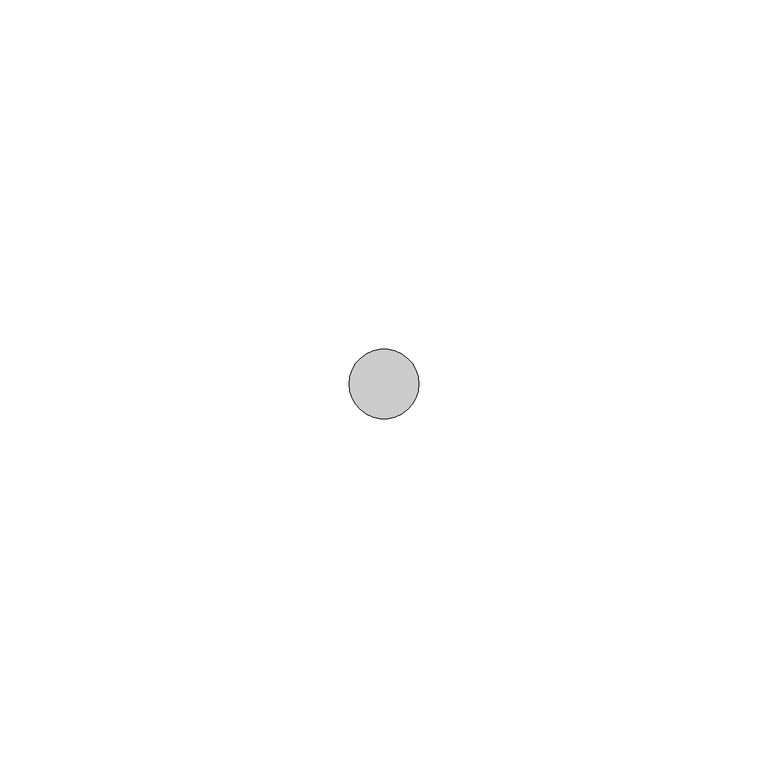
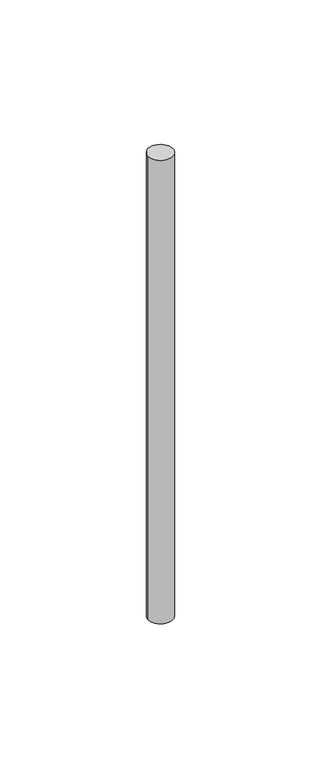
"""IFC4 building model written with IfcOpenShell, lengths in millimetres: proxy geometry, ENG-Connectors installed in horizontal structure sealed with AKTI-VO 201 : ENG-Connectors installed in horizontal structure sealed with AKTI-VO 201."""

from ifc_helpers import new_model, si_unit, point, origin, origin_with_axes, origin_2d, place, context, project, spatial, circle_curve, trimmed, segment, composite_curve, outline, extrude, source, transform, mapped, element, save


def generic_models_3b7ed561(model_context):
    return source(origin(), model_context, "Body", "SweptSolid", [
        extrude(outline(composite_curve([segment(trimmed(circle_curve(origin_2d(), 5.0), [point((-5.0, 0.0))], [point((5.0, 0.0))], False, "CARTESIAN"), True, "CONTINUOUS"), segment(trimmed(circle_curve(origin_2d(), 5.0), [point((5.0, 0.0))], [point((-5.0, 0.0))], False, "CARTESIAN"), True, "CONTINUOUS")], self_intersect=False)), origin_with_axes(), (0.0, 0.0, 1.0), 200.0),
    ])


if __name__ == "__main__":
    model = new_model("IFC4")
    model_context = context("Model", 3, world=origin())
    ifc_project = project(units=[si_unit("LENGTHUNIT", "METRE", prefix="MILLI")], contexts=[model_context])
    site = spatial("IfcSite", under=ifc_project)
    building = spatial("IfcBuilding", under=site)
    placement = place(None, origin())
    generic_models_shape = generic_models_3b7ed561(model_context)
    element("IfcBuildingElementProxy", 1, Name="ENG-Connectors installed in horizontal structure sealed with AKTI-VO 201 : ENG-Connectors installed in horizontal structure sealed with AKTI-VO 201", ObjectType="ENG-Connectors installed in horizontal structure sealed with AKTI-VO 201 : ENG-Connectors installed in horizontal structure sealed with AKTI-VO 201", at=placement, inside=building, context=model_context, shape_type="MappedRepresentation", body=[
        mapped(generic_models_shape, transform((0.0, 0.0, 0.0), x_axis=(1.0, 0.0, 0.0), y_axis=(0.0, 1.0, 0.0), z_axis=(0.0, 0.0, 1.0))),
    ])
    save(model, "model.ifc")
